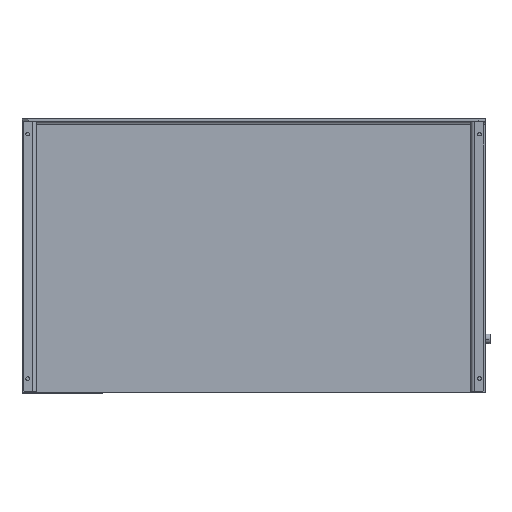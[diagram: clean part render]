
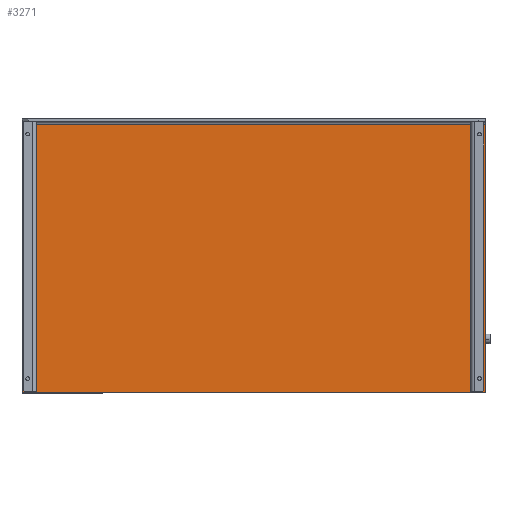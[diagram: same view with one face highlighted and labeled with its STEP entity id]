
A CAD part, front view. The second image highlights one B-rep face of the part: STEP entity #3271.
In plain terms, the highlighted planar face has unit normal (0, -1, 0).
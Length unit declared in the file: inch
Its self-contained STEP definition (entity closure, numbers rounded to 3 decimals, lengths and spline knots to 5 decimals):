
#211 = CARTESIAN_POINT ( 'NONE',  ( -46.94675, 3.33729, 22.50586 ) ) ;
#254 = DIRECTION ( 'NONE',  ( 1., 0., 0. ) ) ;
#380 = VECTOR ( 'NONE', #3345, 39.37008 ) ;
#497 = CARTESIAN_POINT ( 'NONE',  ( -46.94675, 3.33729, -20.05414 ) ) ;
#1127 = EDGE_LOOP ( 'NONE', ( #10470, #7680, #6956, #9496 ) ) ;
#1171 = VERTEX_POINT ( 'NONE', #8376 ) ;
#1484 = VERTEX_POINT ( 'NONE', #6133 ) ;
#1880 = VECTOR ( 'NONE', #254, 39.37008 ) ;
#2537 = VECTOR ( 'NONE', #8384, 39.37008 ) ;
#2911 = CARTESIAN_POINT ( 'NONE',  ( 25.05325, 3.33729, 22.50586 ) ) ;
#3271 = ADVANCED_FACE ( 'NONE', ( #11696 ), #10015, .T. ) ;
#3282 = VERTEX_POINT ( 'NONE', #9995 ) ;
#3345 = DIRECTION ( 'NONE',  ( -1., 0., 0. ) ) ;
#3948 = DIRECTION ( 'NONE',  ( 0., 0., -1. ) ) ;
#4631 = LINE ( 'NONE', #8434, #1880 ) ;
#5129 = AXIS2_PLACEMENT_3D ( 'NONE', #10029, #10006, #9997 ) ;
#5595 = LINE ( 'NONE', #211, #2537 ) ;
#6133 = CARTESIAN_POINT ( 'NONE',  ( 25.05325, 3.33729, -20.05414 ) ) ;
#6956 = ORIENTED_EDGE ( 'NONE', *, *, #11563, .F. ) ;
#7680 = ORIENTED_EDGE ( 'NONE', *, *, #11610, .F. ) ;
#8074 = VECTOR ( 'NONE', #3948, 39.37008 ) ;
#8221 = LINE ( 'NONE', #9318, #380 ) ;
#8376 = CARTESIAN_POINT ( 'NONE',  ( -46.94675, 3.33729, 21.61186 ) ) ;
#8384 = DIRECTION ( 'NONE',  ( 0., 0., 1. ) ) ;
#8434 = CARTESIAN_POINT ( 'NONE',  ( -46.94675, 3.33729, 21.61186 ) ) ;
#9318 = CARTESIAN_POINT ( 'NONE',  ( -46.94675, 3.33729, -20.05414 ) ) ;
#9496 = ORIENTED_EDGE ( 'NONE', *, *, #11538, .F. ) ;
#9995 = CARTESIAN_POINT ( 'NONE',  ( 25.05325, 3.33729, 21.61186 ) ) ;
#9997 = DIRECTION ( 'NONE',  ( 0., 0., -1. ) ) ;
#10006 = DIRECTION ( 'NONE',  ( 0., -1., 0. ) ) ;
#10015 = PLANE ( 'NONE',  #5129 ) ;
#10029 = CARTESIAN_POINT ( 'NONE',  ( -46.94675, 3.33729, -20.05414 ) ) ;
#10470 = ORIENTED_EDGE ( 'NONE', *, *, #11245, .F. ) ;
#10617 = LINE ( 'NONE', #2911, #8074 ) ;
#11245 = EDGE_CURVE ( 'NONE', #3282, #1484, #10617, .T. ) ;
#11538 = EDGE_CURVE ( 'NONE', #1484, #11733, #8221, .T. ) ;
#11563 = EDGE_CURVE ( 'NONE', #11733, #1171, #5595, .T. ) ;
#11610 = EDGE_CURVE ( 'NONE', #1171, #3282, #4631, .T. ) ;
#11696 = FACE_OUTER_BOUND ( 'NONE', #1127, .T. ) ;
#11733 = VERTEX_POINT ( 'NONE', #497 ) ;
